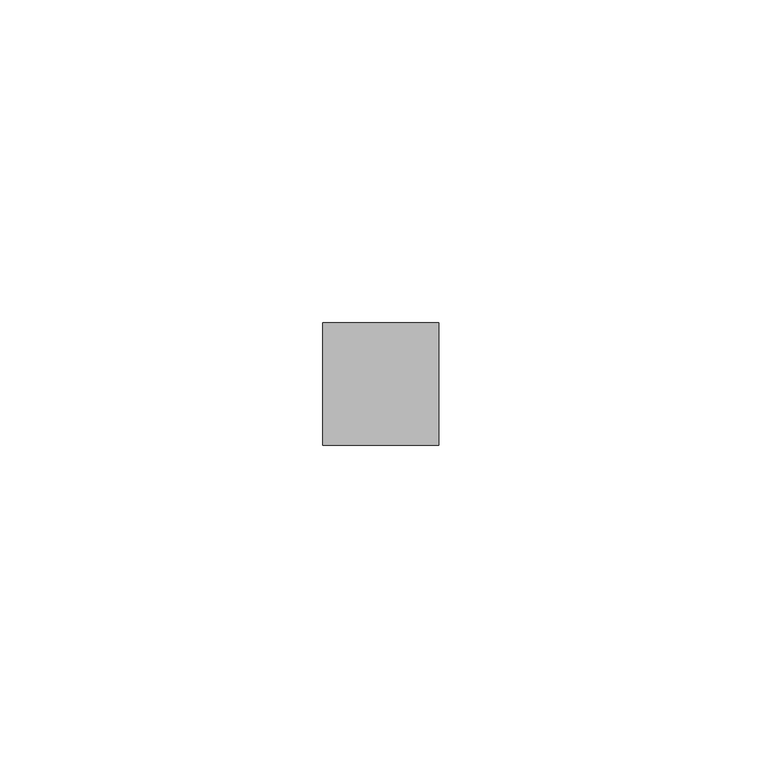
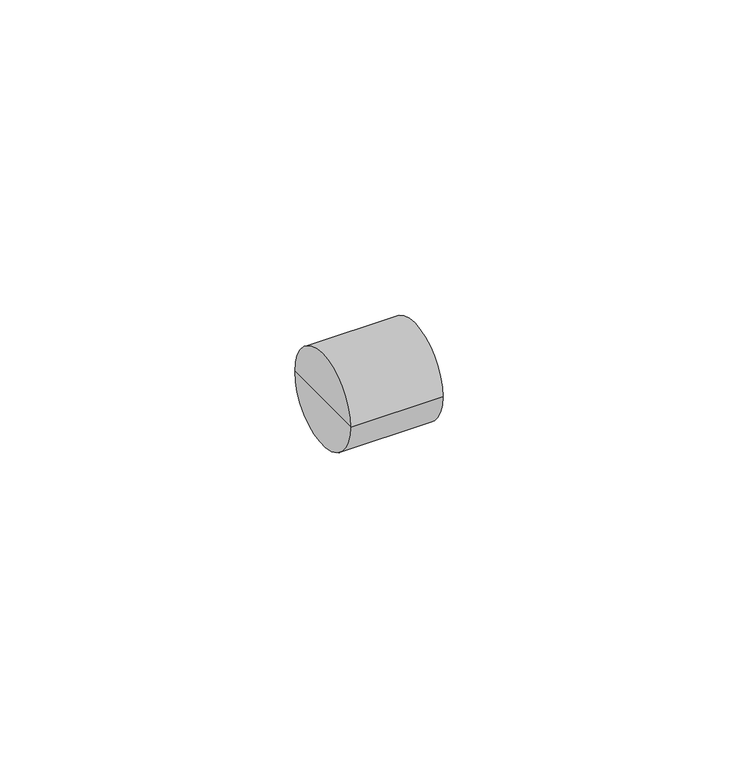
"""IFC4 building model written with IfcOpenShell, lengths in millimetres: pipe fitting geometry, KAN-therm Push mosiężny pierścień nasuwany : KAN-therm Push mosiężny pierścień nasuwany."""

from ifc_helpers import new_model, si_unit, frame, origin, place, context, project, spatial, circle_curve, source, transform, mapped, element, save
from ifc_brep_helpers import plane_surface, cylinder_surface, advanced_brep


def pipe_fitting_cd0dfacf(model_context):
    return source(origin(), model_context, "Body", "AdvancedBrep", [
        advanced_brep(
        [(18.0, 9.5, 0.0), (18.0, 0.0, 0.0), (18.0, -9.5, 0.0), (0.0, 9.5, 0.0), (0.0, -9.5, 0.0), (0.0, 0.0, 0.0)],
        [
            (0, 1),
            (1, 2),
            (2, 0, circle_curve(frame((18.0, 0.0, 0.0), z_axis=(1.0, 0.0, 0.0), x_axis=(0.0, -1.0, 0.0)), 9.5)),
            (0, 2, circle_curve(frame((18.0, 0.0, 0.0), z_axis=(1.0, 0.0, 0.0), x_axis=(0.0, -1.0, 0.0)), 9.5)),
            (3, 0),
            (2, 4),
            (4, 3, circle_curve(frame((0.0, 0.0, 0.0), z_axis=(1.0, 0.0, 0.0), x_axis=(0.0, -1.0, 0.0)), 9.5)),
            (3, 4, circle_curve(frame((0.0, 0.0, 0.0), z_axis=(1.0, 0.0, 0.0), x_axis=(0.0, -1.0, 0.0)), 9.5)),
            (5, 3),
            (4, 5),
        ],
        [
            plane_surface(frame((18.0, 0.0, 0.0), z_axis=(1.0, 0.0, 0.0), x_axis=(0.0, -1.0, 0.0))),
            cylinder_surface(frame((1995.0, 0.0, 0.0), z_axis=(-1.0, 0.0, 0.0), x_axis=(0.0, -1.0, 0.0)), 9.5),
            plane_surface(frame((0.0, 0.0, 0.0), z_axis=(-1.0, 0.0, 0.0), x_axis=(0.0, -1.0, 0.0))),
        ],
        [
            (0, [[1, 2, 3]]),
            (0, [[-2, -1, 4]]),
            (1, [[5, -3, 6, 7]]),
            (1, [[-6, -4, -5, 8]]),
            (2, [[9, -7, 10]]),
            (2, [[-10, -8, -9]]),
        ],
    ),
    ])


if __name__ == "__main__":
    model = new_model("IFC4")
    model_context = context("Model", 3, world=origin())
    ifc_project = project(units=[si_unit("LENGTHUNIT", "METRE", prefix="MILLI")], contexts=[model_context])
    site = spatial("IfcSite", under=ifc_project)
    building = spatial("IfcBuilding", under=site)
    placement = place(None, origin())
    pipe_fitting_shape = pipe_fitting_cd0dfacf(model_context)
    element("IfcPipeFitting", 1, ObjectType="KAN-therm Push mosiężny pierścień nasuwany : KAN-therm Push mosiężny pierścień nasuwany", at=placement, inside=building, context=model_context, shape_type="MappedRepresentation", body=[
        mapped(pipe_fitting_shape, transform((0.0, 0.0, 0.0), x_axis=(1.0, 0.0, 0.0), y_axis=(0.0, 1.0, 0.0), z_axis=(0.0, 0.0, 1.0))),
    ])
    save(model, "model.ifc")
